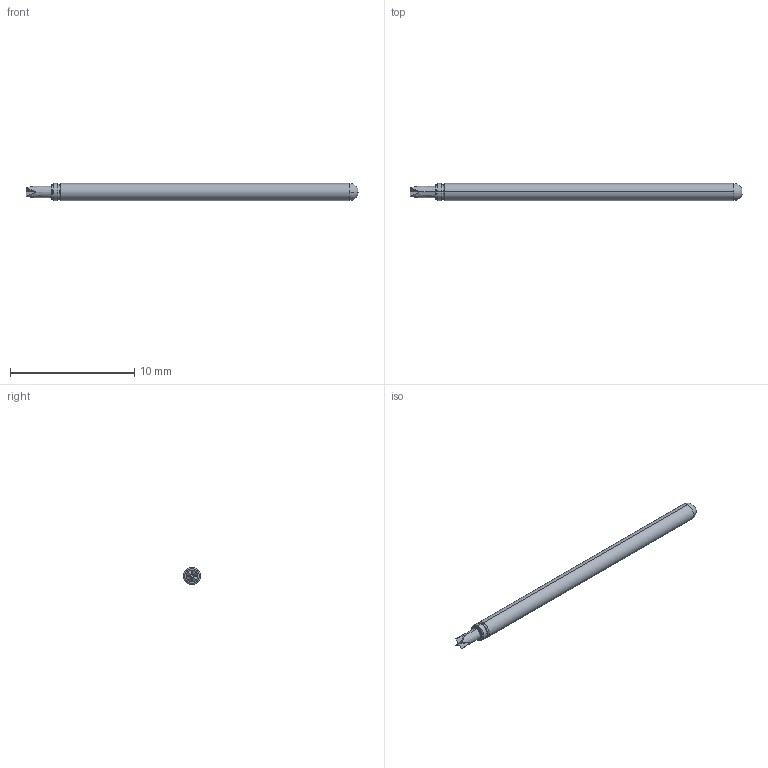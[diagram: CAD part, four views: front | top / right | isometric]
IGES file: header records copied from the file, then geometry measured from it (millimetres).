
Start section: SolidWorks IGES file using analytic representation for surfaces
Global section: file name: Z:\probe solid model mockups\Solidworks models\POGO-25 IGS files\POGO-25FL Full.IGS; native system: SolidWorks 2006 by SolidWorks Corporation; preprocessor: SolidWorks 2006 by SolidWorks Corporation; author: tsakatani; date: 071214.084447; units: inch
Bounding box: 26.67 x 1.37 x 1.37 mm (x, y, z)
Surface area: 113.5 mm2 (no closed solid volume)
Topology: 0 solids, 0 shells, 26 faces, 170 edges, 170 vertices
Faces by surface type: bspline 14, revolution 12
